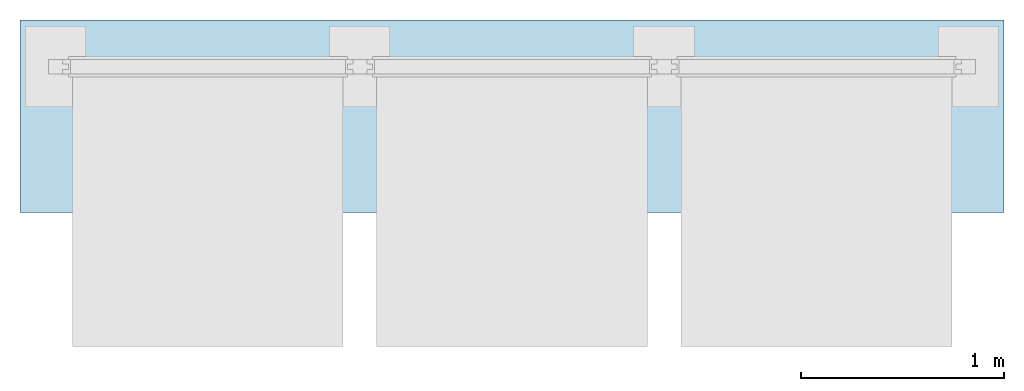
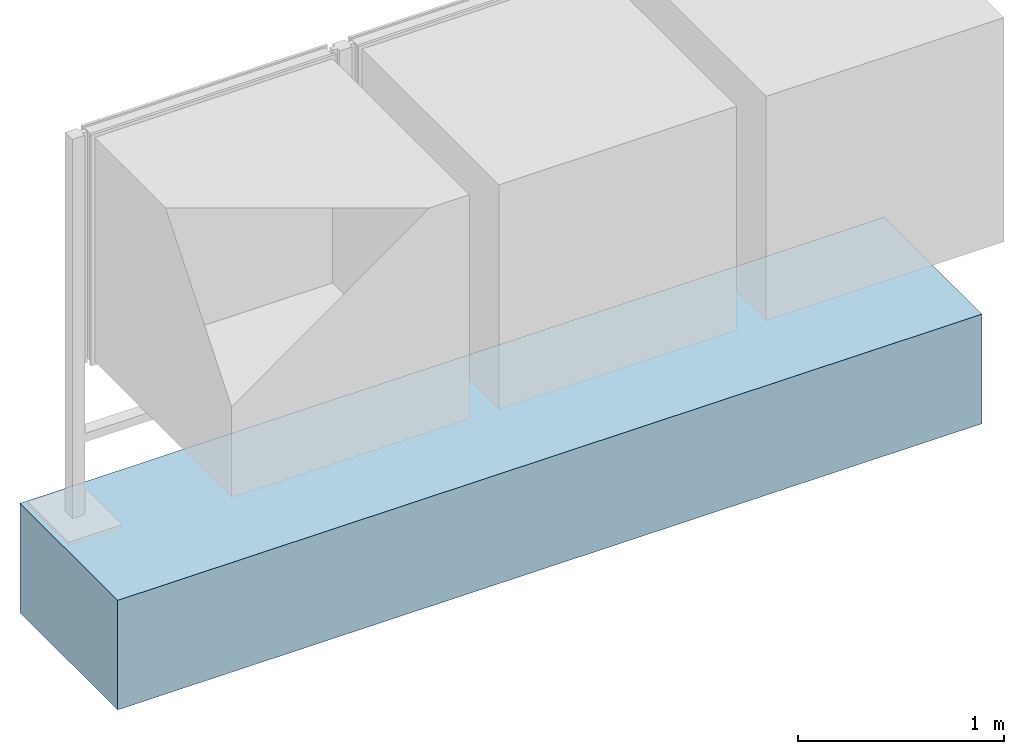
# One storey, incomplete: 1 slab.
"""IFC4 building model written with IfcOpenShell, lengths in metres."""

from ifc_helpers import new_model, entity, si_unit, converted_unit, direction, frame, frame_2d, origin, origin_2d_with_axis, place, context, subcontext, project, spatial, rectangle, extrude, material, type_object, element, save


model = new_model("IFC4")

# Units and contexts
model_context = context("Model", 3, precision=1e-05, world=origin(), true_north=direction((6.123031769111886e-17, 1.0)))
body_context = subcontext(model_context, "Body", "Model", "MODEL_VIEW")
ifc_project = project(units=[si_unit("LENGTHUNIT", "METRE"), converted_unit("PLANEANGLEUNIT", "DEGREE", entity("IfcPlaneAngleMeasure", 0.017453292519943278), si_unit("PLANEANGLEUNIT", "RADIAN"), dimensions=[0, 0, 0, 0, 0, 0, 0]), si_unit("AREAUNIT", "SQUARE_METRE")], contexts=[model_context])

# Site, building, storey
site_placement = place(None, origin())
site = spatial("IfcSite", under=ifc_project, at=site_placement, Name="Default", CompositionType="ELEMENT")
building_placement = place(site_placement, origin())
building = spatial("IfcBuilding", under=site, at=building_placement, CompositionType="ELEMENT")
storey_placement = place(building_placement, origin())
storey = spatial("IfcBuildingStorey", under=building, at=storey_placement, Name="Ebene 0", CompositionType="ELEMENT", Elevation=0.0)

# Slab
ifc_material = material(Name="DB_Magerbeton", Category="DB_Beton")
slab_type = type_object("IfcSlabType", Name="DB_Vitrine_Fundament_dreifeldrig_Windlastzone_1_2:DB_Vitrine_Fundament_dreifeldrig_Windlastzone_1_2", PredefinedType="BASESLAB", material=ifc_material)
slab_placement = place(storey_placement, origin())
element("IfcSlab", 1, at=slab_placement, inside=storey, type_object=slab_type, Name="DB_Vitrine_Fundament_dreifeldrig_Windlastzone_1_2:DB_Vitrine_Fundament_dreifeldrig_Windlastzone_1_2", ObjectType="DB_Vitrine_Fundament_dreifeldrig_Windlastzone_1_2:DB_Vitrine_Fundament_dreifeldrig_Windlastzone_1_2", PredefinedType="BASESLAB", context=body_context, shape_type="SweptSolid", body=[
    extrude(rectangle(XDim=0.9500000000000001, YDim=4.85, at=origin_2d_with_axis()), frame((2.2493742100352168, -0.24499999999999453, 0.0), z_axis=(0.0, 0.0, 1.0), x_axis=(0.0, -1.0, 0.0)), (0.0, 0.0, 1.0), 0.04999999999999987),
    extrude(rectangle(XDim=4.85, YDim=0.9500000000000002, at=frame_2d((0.0, -2.7755575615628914e-17), x_axis=(1.0, 0.0))), frame((2.2493742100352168, -0.24499999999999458, 0.04999999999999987), z_axis=(0.0, 0.0, 1.0), x_axis=(-1.0, 0.0, 0.0)), (0.0, 0.0, 1.0), 0.5999999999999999),
])

save(model, "model.ifc")
